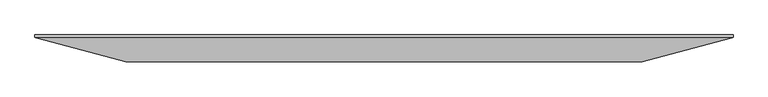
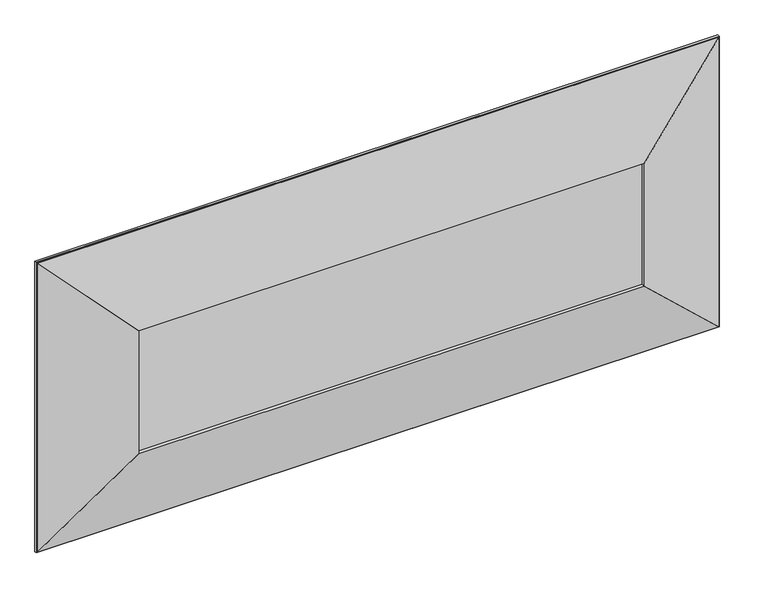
"""IFC4 building model written with IfcOpenShell, lengths in millimetres: proxy geometry, AERO^TABLE 5_54120 CTR TROUGH-PARTS SOLID."""

from ifc_helpers import new_model, si_unit, frame, origin, place, context, project, spatial, polyline, outline, extrude, faceted_brep, source, transform, mapped, element, save


def generic_models_ab58716d(model_context):
    return source(origin(), model_context, "Body", "SolidModel", [
        faceted_brep([(2652.2727442, -86.1340599, -395.7272558), (3044.825, 19.05, -3.175), (3044.825, 22.225, -3.175), (3007.6052293, 22.225, -40.3947707), (2648.9857423, -73.8668019, -399.0142577), (3007.6052293, 22.225, -1331.2052293), (2648.9857423, -73.8668019, -972.5857423), (3044.825, 22.225, -1368.425), (3044.825, 19.05, -1368.425), (2652.2727442, -86.1340599, -975.8727442)], [[[0, 1, 2, 3, 4]], [[4, 3, 5, 6]], [[3, 2, 7, 5]], [[7, 8, 9, 6, 5]], [[0, 4, 6, 9]], [[1, 0, 9, 8]], [[2, 1, 8, 7]]]),
        faceted_brep([(40.3947707, 22.225, -40.3947707), (399.0142577, -73.8668019, -399.0142577), (395.7272558, -86.1340599, -395.7272558), (3.175, 19.05, -3.175), (3.175, 22.225, -3.175), (3044.825, 22.225, -3.175), (3007.6052293, 22.225, -40.3947707), (3044.825, 19.05, -3.175), (2652.2727442, -86.1340599, -395.7272558), (2648.9857423, -73.8668019, -399.0142577)], [[[0, 1, 2, 3, 4]], [[0, 4, 5, 6]], [[4, 3, 7, 5]], [[3, 2, 8, 7]], [[6, 5, 7, 8, 9]], [[1, 0, 6, 9]], [[2, 1, 9, 8]]]),
        faceted_brep([(399.0142577, -73.8668019, -972.5857423), (40.3947707, 22.225, -1331.2052293), (3.175, 22.225, -1368.425), (3.175, 19.05, -1368.425), (395.7272558, -86.1340599, -975.8727442), (3044.825, 19.05, -1368.425), (2652.2727442, -86.1340599, -975.8727442), (3044.825, 22.225, -1368.425), (3007.6052293, 22.225, -1331.2052293), (2648.9857423, -73.8668019, -972.5857423)], [[[0, 1, 2, 3, 4]], [[4, 3, 5, 6]], [[3, 2, 7, 5]], [[7, 8, 9, 6, 5]], [[0, 4, 6, 9]], [[1, 0, 9, 8]], [[2, 1, 8, 7]]]),
        extrude(outline(polyline([(3048.0, 22.225), (0.0, 22.225), (0.0, 31.75), (3048.0, 31.75), (3048.0, 22.225)])), frame((0.0, 0.0, -1371.6), z_axis=(0.0, 0.0, 1.0), x_axis=(1.0, 0.0, 0.0)), (0.0, 0.0, 1.0), 1371.6),
        faceted_brep([(3.175, 19.05, -3.175), (395.7272558, -86.1340599, -395.7272558), (399.0142577, -73.8668019, -399.0142577), (40.3947707, 22.225, -40.3947707), (3.175, 22.225, -3.175), (3.175, 22.225, -1368.425), (3.175, 19.05, -1368.425), (40.3947707, 22.225, -1331.2052293), (399.0142577, -73.8668019, -972.5857423), (395.7272558, -86.1340599, -975.8727442)], [[[0, 1, 2, 3, 4]], [[0, 4, 5, 6]], [[4, 3, 7, 5]], [[3, 2, 8, 7]], [[6, 5, 7, 8, 9]], [[1, 0, 6, 9]], [[2, 1, 9, 8]]]),
    ])


if __name__ == "__main__":
    model = new_model("IFC4")
    model_context = context("Model", 3, world=origin())
    ifc_project = project(units=[si_unit("LENGTHUNIT", "METRE", prefix="MILLI")], contexts=[model_context])
    site = spatial("IfcSite", under=ifc_project)
    building = spatial("IfcBuilding", under=site)
    placement = place(None, origin())
    generic_models_shape = generic_models_ab58716d(model_context)
    element("IfcBuildingElementProxy", 1, Name="AERO^TABLE 5_54120 CTR TROUGH-PARTS SOLID", ObjectType="AERO^TABLE 5_54120 CTR TROUGH-PARTS SOLID", at=placement, inside=building, context=model_context, shape_type="MappedRepresentation", body=[
        mapped(generic_models_shape, transform((0.0, 0.0, 0.0), x_axis=(1.0, 0.0, 0.0), y_axis=(0.0, 1.0, 0.0), z_axis=(0.0, 0.0, 1.0))),
    ])
    save(model, "model.ifc")
